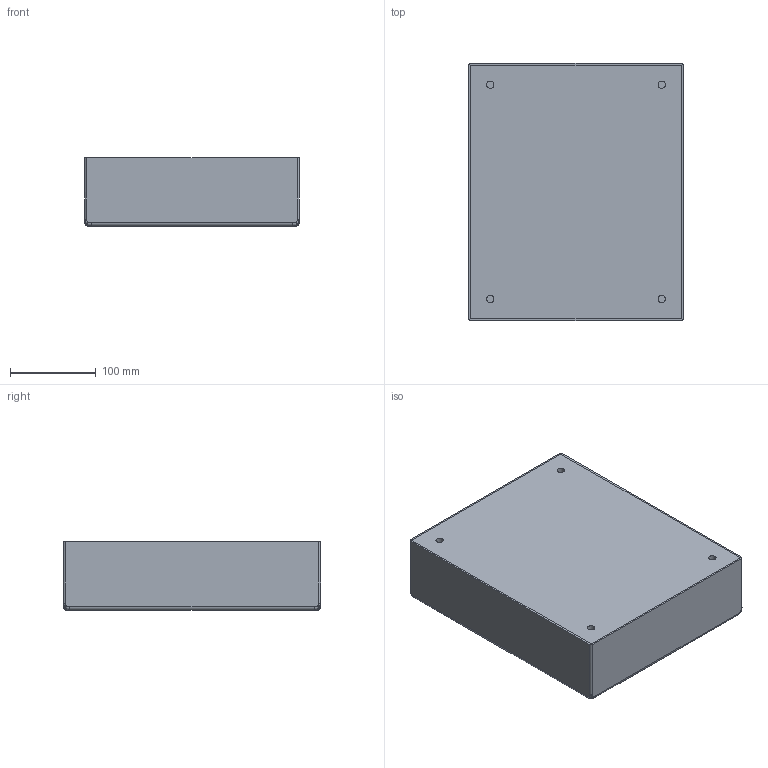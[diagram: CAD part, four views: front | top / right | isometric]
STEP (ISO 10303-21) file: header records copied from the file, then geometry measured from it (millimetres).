
FILE_DESCRIPTION(/* description */ (''),/* implementation_level */ '2;1');
FILE_NAME(/* name */ 'SMB-25-30.step',/* time_stamp */ '2023-07-05T14:15:44+09:00',/* author */ (''),/* organization */ (''),/* preprocessor_version */ 'ST-DEVELOPER v19.2',/* originating_system */ 'Autodesk Translation Framework v12.6.0.85',/* authorisation */ '');
FILE_SCHEMA (('AUTOMOTIVE_DESIGN { 1 0 10303 214 3 1 1 }'));
Length unit declared in the file: millimetre
Products named in the file (1): SMB-25-30
Bounding box: 250 x 300 x 80 mm (x, y, z)
Volume: 1188237.5 mm3; surface area: 478883.5 mm2
Topology: 2 solids, 2 shells, 57 faces, 140 edges, 88 vertices
Faces by surface type: bspline 24, plane 17, cylinder 16
Full cylindrical faces by diameter (mm): 8.526 x4
Entity records: 4544 total; most frequent: CARTESIAN_POINT 3246, ORIENTED_EDGE 280, DIRECTION 216, EDGE_CURVE 140, VERTEX_POINT 88, AXIS2_PLACEMENT_3D 82, EDGE_LOOP 66, FACE_OUTER_BOUND 57
